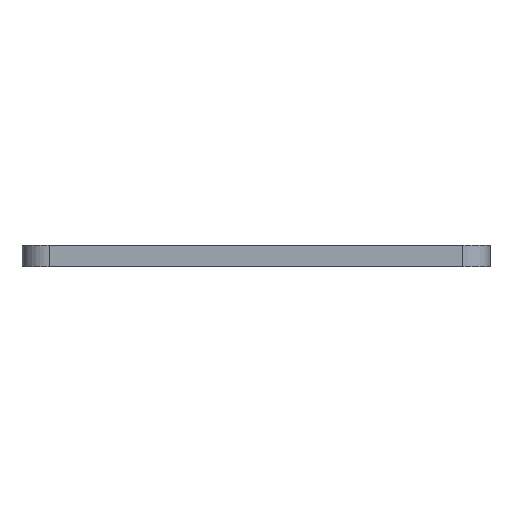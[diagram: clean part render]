
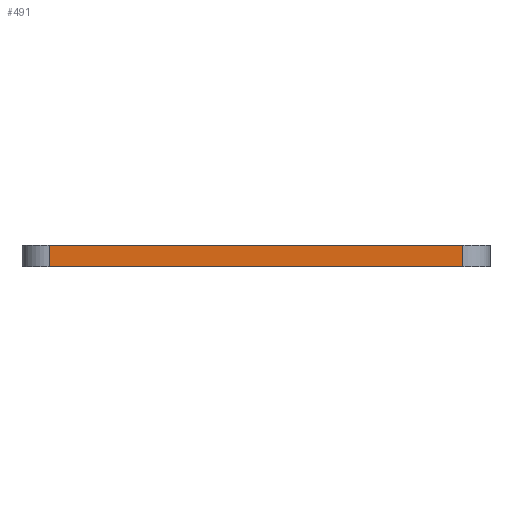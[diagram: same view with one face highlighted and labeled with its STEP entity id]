
A CAD part, front view. The second image highlights one B-rep face of the part: STEP entity #491.
In plain terms, the highlighted planar face has unit normal (0, -1, 0).
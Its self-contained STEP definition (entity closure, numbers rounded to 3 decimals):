
#3 = VERTEX_POINT ( 'NONE', #690 ) ;
#8 = VECTOR ( 'NONE', #295, 1000. ) ;
#17 = LINE ( 'NONE', #671, #83 ) ;
#34 = PLANE ( 'NONE',  #704 ) ;
#83 = VECTOR ( 'NONE', #180, 1000. ) ;
#99 = DIRECTION ( 'NONE',  ( 0., 0., 1. ) ) ;
#108 = CARTESIAN_POINT ( 'NONE',  ( 40.5, 0., 0. ) ) ;
#138 = ORIENTED_EDGE ( 'NONE', *, *, #369, .F. ) ;
#142 = CARTESIAN_POINT ( 'NONE',  ( 2.5, 0., 2. ) ) ;
#157 = VECTOR ( 'NONE', #612, 1000. ) ;
#171 = VERTEX_POINT ( 'NONE', #108 ) ;
#180 = DIRECTION ( 'NONE',  ( 1., 0., 0. ) ) ;
#240 = VECTOR ( 'NONE', #588, 1000. ) ;
#244 = LINE ( 'NONE', #610, #8 ) ;
#255 = CARTESIAN_POINT ( 'NONE',  ( 2.5, 0., 2. ) ) ;
#271 = DIRECTION ( 'NONE',  ( 0., 1., 0. ) ) ;
#283 = ORIENTED_EDGE ( 'NONE', *, *, #437, .T. ) ;
#287 = ORIENTED_EDGE ( 'NONE', *, *, #585, .T. ) ;
#295 = DIRECTION ( 'NONE',  ( 0., 0., -1. ) ) ;
#339 = LINE ( 'NONE', #549, #157 ) ;
#369 = EDGE_CURVE ( 'NONE', #469, #171, #244, .T. ) ;
#375 = LINE ( 'NONE', #535, #240 ) ;
#376 = ORIENTED_EDGE ( 'NONE', *, *, #649, .F. ) ;
#437 = EDGE_CURVE ( 'NONE', #613, #3, #339, .T. ) ;
#469 = VERTEX_POINT ( 'NONE', #655 ) ;
#473 = FACE_OUTER_BOUND ( 'NONE', #575, .T. ) ;
#491 = ADVANCED_FACE ( 'NONE', ( #473 ), #34, .F. ) ;
#535 = CARTESIAN_POINT ( 'NONE',  ( 2.5, 0., 0. ) ) ;
#549 = CARTESIAN_POINT ( 'NONE',  ( 2.5, 0., 2. ) ) ;
#575 = EDGE_LOOP ( 'NONE', ( #287, #138, #376, #283 ) ) ;
#585 = EDGE_CURVE ( 'NONE', #3, #171, #375, .T. ) ;
#588 = DIRECTION ( 'NONE',  ( 1., 0., 0. ) ) ;
#610 = CARTESIAN_POINT ( 'NONE',  ( 40.5, 0., 2. ) ) ;
#612 = DIRECTION ( 'NONE',  ( 0., 0., -1. ) ) ;
#613 = VERTEX_POINT ( 'NONE', #142 ) ;
#649 = EDGE_CURVE ( 'NONE', #613, #469, #17, .T. ) ;
#655 = CARTESIAN_POINT ( 'NONE',  ( 40.5, 0., 2. ) ) ;
#671 = CARTESIAN_POINT ( 'NONE',  ( 2.5, 0., 2. ) ) ;
#690 = CARTESIAN_POINT ( 'NONE',  ( 2.5, 0., 0. ) ) ;
#704 = AXIS2_PLACEMENT_3D ( 'NONE', #255, #271, #99 ) ;
